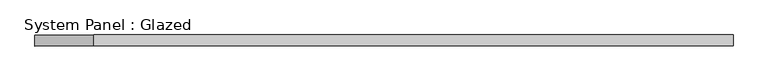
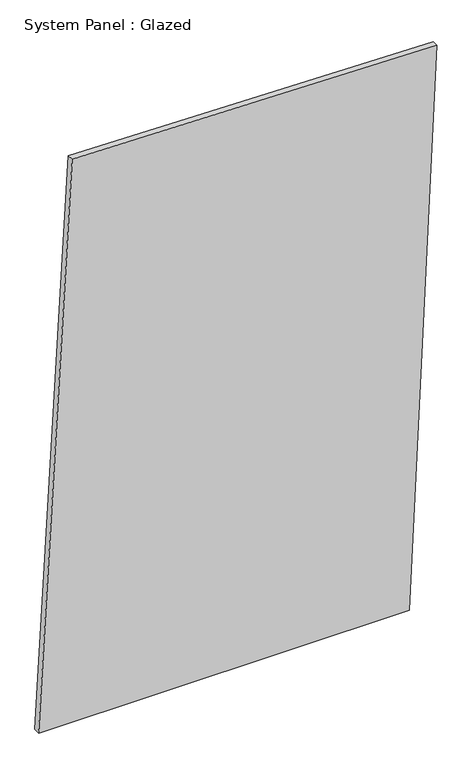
"""IFC4 building model written with IfcOpenShell, lengths in millimetres: plate geometry, System Panel : Glazed."""

from ifc_helpers import new_model, si_unit, frame, origin, place, context, project, spatial, polyline, outline, extrude, source, transform, mapped, element, save


def system_panel_glazed_0da2abb7(model_context):
    return source(origin(), model_context, "Body", "SweptSolid", [
        extrude(outline(polyline([(0.0, -793.6384132), (0.0, 683.6108102), (2342.598492, 793.6384132), (2371.0789248, -659.7788429), (0.0, -793.6384132)])), frame((0.0, -49.5, 0.0), z_axis=(0.0, 1.0, 0.0), x_axis=(0.0, 0.0, 1.0)), (0.0, 0.0, 1.0), 25.0),
    ])


if __name__ == "__main__":
    model = new_model("IFC4")
    model_context = context("Model", 3, world=origin())
    ifc_project = project(units=[si_unit("LENGTHUNIT", "METRE", prefix="MILLI")], contexts=[model_context])
    site = spatial("IfcSite", under=ifc_project)
    building = spatial("IfcBuilding", under=site)
    placement = place(None, origin())
    system_panel_glazed_shape = system_panel_glazed_0da2abb7(model_context)
    element("IfcPlate", 1, ObjectType="System Panel : Glazed", at=placement, inside=building, context=model_context, shape_type="MappedRepresentation", body=[
        mapped(system_panel_glazed_shape, transform((0.0, 0.0, 0.0), x_axis=(1.0, 0.0, 0.0), y_axis=(0.0, 1.0, 0.0), z_axis=(0.0, 0.0, 1.0))),
    ])
    save(model, "model.ifc")
